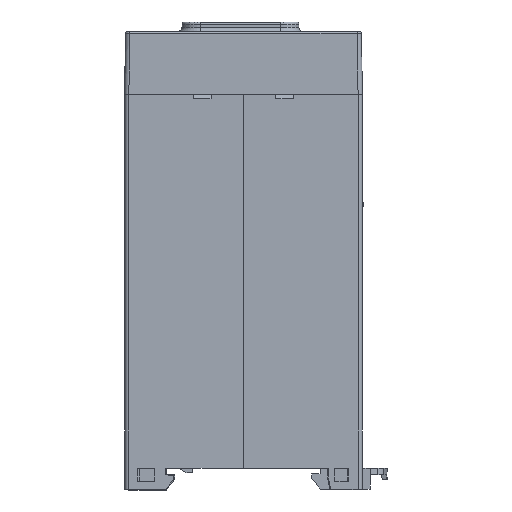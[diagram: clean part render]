
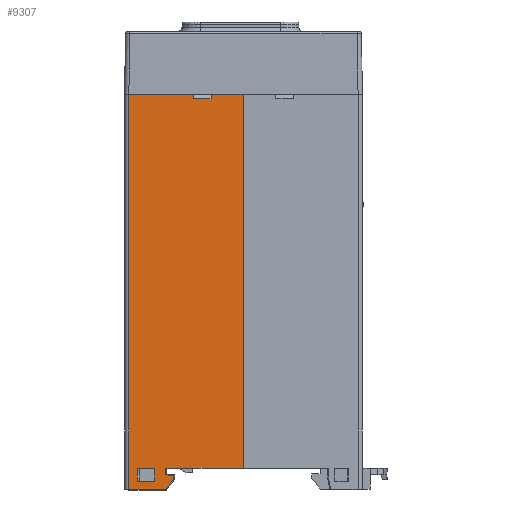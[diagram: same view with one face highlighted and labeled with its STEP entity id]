
A CAD part, left-side view. The second image highlights one B-rep face of the part: STEP entity #9307.
In plain terms, the highlighted planar face has unit normal (-1, 0, 0).
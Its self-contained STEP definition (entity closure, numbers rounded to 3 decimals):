
#8718=FACE_BOUND('',#13662,.T.);
#8719=FACE_BOUND('',#13663,.T.);
#9307=ADVANCED_FACE('',(#8718,#8719),#10836,.T.);
#10836=PLANE('',#38851);
#13662=EDGE_LOOP('',(#17702,#17703,#17704,#17705));
#13663=EDGE_LOOP('',(#17706,#17707,#17708,#17709,#17710,#17711,#17712,#17713,
#17714,#17715,#17716,#17717,#17718));
#17702=ORIENTED_EDGE('',*,*,#28139,.F.);
#17703=ORIENTED_EDGE('',*,*,#28140,.T.);
#17704=ORIENTED_EDGE('',*,*,#28141,.T.);
#17705=ORIENTED_EDGE('',*,*,#28142,.F.);
#17706=ORIENTED_EDGE('',*,*,#28143,.F.);
#17707=ORIENTED_EDGE('',*,*,#28144,.T.);
#17708=ORIENTED_EDGE('',*,*,#28145,.F.);
#17709=ORIENTED_EDGE('',*,*,#28146,.T.);
#17710=ORIENTED_EDGE('',*,*,#28147,.T.);
#17711=ORIENTED_EDGE('',*,*,#28148,.T.);
#17712=ORIENTED_EDGE('',*,*,#28149,.T.);
#17713=ORIENTED_EDGE('',*,*,#28150,.T.);
#17714=ORIENTED_EDGE('',*,*,#28151,.T.);
#17715=ORIENTED_EDGE('',*,*,#28152,.T.);
#17716=ORIENTED_EDGE('',*,*,#28153,.T.);
#17717=ORIENTED_EDGE('',*,*,#28154,.F.);
#17718=ORIENTED_EDGE('',*,*,#28155,.F.);
#24944=VERTEX_POINT('',#50334);
#24945=VERTEX_POINT('',#50335);
#24946=VERTEX_POINT('',#50337);
#24947=VERTEX_POINT('',#50339);
#24948=VERTEX_POINT('',#50342);
#24949=VERTEX_POINT('',#50343);
#24950=VERTEX_POINT('',#50345);
#24951=VERTEX_POINT('',#50347);
#24952=VERTEX_POINT('',#50349);
#24953=VERTEX_POINT('',#50351);
#24954=VERTEX_POINT('',#50353);
#24955=VERTEX_POINT('',#50355);
#24956=VERTEX_POINT('',#50357);
#24957=VERTEX_POINT('',#50359);
#24958=VERTEX_POINT('',#50361);
#24959=VERTEX_POINT('',#50363);
#24960=VERTEX_POINT('',#50365);
#28139=EDGE_CURVE('',#24944,#24945,#32287,.T.);
#28140=EDGE_CURVE('',#24944,#24946,#32288,.T.);
#28141=EDGE_CURVE('',#24946,#24947,#32289,.T.);
#28142=EDGE_CURVE('',#24945,#24947,#32290,.T.);
#28143=EDGE_CURVE('',#24948,#24949,#32291,.T.);
#28144=EDGE_CURVE('',#24948,#24950,#32292,.T.);
#28145=EDGE_CURVE('',#24951,#24950,#32293,.T.);
#28146=EDGE_CURVE('',#24951,#24952,#32294,.T.);
#28147=EDGE_CURVE('',#24952,#24953,#32295,.T.);
#28148=EDGE_CURVE('',#24953,#24954,#32296,.T.);
#28149=EDGE_CURVE('',#24954,#24955,#32297,.T.);
#28150=EDGE_CURVE('',#24955,#24956,#32298,.T.);
#28151=EDGE_CURVE('',#24956,#24957,#32299,.T.);
#28152=EDGE_CURVE('',#24957,#24958,#32300,.T.);
#28153=EDGE_CURVE('',#24958,#24959,#32301,.T.);
#28154=EDGE_CURVE('',#24960,#24959,#32302,.T.);
#28155=EDGE_CURVE('',#24949,#24960,#32303,.T.);
#32287=LINE('',#50333,#35683);
#32288=LINE('',#50336,#35684);
#32289=LINE('',#50338,#35685);
#32290=LINE('',#50340,#35686);
#32291=LINE('',#50341,#35687);
#32292=LINE('',#50344,#35688);
#32293=LINE('',#50346,#35689);
#32294=LINE('',#50348,#35690);
#32295=LINE('',#50350,#35691);
#32296=LINE('',#50352,#35692);
#32297=LINE('',#50354,#35693);
#32298=LINE('',#50356,#35694);
#32299=LINE('',#50358,#35695);
#32300=LINE('',#50360,#35696);
#32301=LINE('',#50362,#35697);
#32302=LINE('',#50364,#35698);
#32303=LINE('',#50366,#35699);
#35683=VECTOR('',#42448,1.);
#35684=VECTOR('',#42449,1.);
#35685=VECTOR('',#42450,1.);
#35686=VECTOR('',#42451,1.);
#35687=VECTOR('',#42452,1.);
#35688=VECTOR('',#42453,1.);
#35689=VECTOR('',#42454,1.);
#35690=VECTOR('',#42455,1.);
#35691=VECTOR('',#42456,1.);
#35692=VECTOR('',#42457,1.);
#35693=VECTOR('',#42458,1.);
#35694=VECTOR('',#42459,1.);
#35695=VECTOR('',#42460,1.);
#35696=VECTOR('',#42461,1.);
#35697=VECTOR('',#42462,1.);
#35698=VECTOR('',#42463,1.);
#35699=VECTOR('',#42464,1.);
#38851=AXIS2_PLACEMENT_3D('',#50367,#42465,#42466);
#42448=DIRECTION('',(0.,-1.,0.));
#42449=DIRECTION('',(0.,0.,1.));
#42450=DIRECTION('',(0.,-1.,0.));
#42451=DIRECTION('',(0.,0.,1.));
#42452=DIRECTION('',(0.,-1.,0.));
#42453=DIRECTION('',(0.,0.,1.));
#42454=DIRECTION('',(0.,-1.,0.));
#42455=DIRECTION('',(0.,0.,-1.));
#42456=DIRECTION('',(0.,-1.,0.));
#42457=DIRECTION('',(0.,-0.605,0.796));
#42458=DIRECTION('',(0.,0.,1.));
#42459=DIRECTION('',(0.,0.995,0.105));
#42460=DIRECTION('',(0.,0.,1.));
#42461=DIRECTION('',(0.,-1.,0.));
#42462=DIRECTION('',(0.,0.,1.));
#42463=DIRECTION('',(0.,-1.,0.));
#42464=DIRECTION('',(0.,0.,1.));
#42465=DIRECTION('',(-1.,0.,0.));
#42466=DIRECTION('',(0.,0.,-1.));
#50333=CARTESIAN_POINT('',(0.001,50.943,-166.731));
#50334=CARTESIAN_POINT('',(0.001,51.443,-166.731));
#50335=CARTESIAN_POINT('',(0.001,47.343,-166.731));
#50336=CARTESIAN_POINT('',(0.001,51.443,-163.731));
#50337=CARTESIAN_POINT('',(0.001,51.443,-163.731));
#50338=CARTESIAN_POINT('',(0.001,47.343,-163.731));
#50339=CARTESIAN_POINT('',(0.001,47.343,-163.731));
#50340=CARTESIAN_POINT('',(0.001,47.343,-166.731));
#50341=CARTESIAN_POINT('',(0.001,38.343,-78.231));
#50342=CARTESIAN_POINT('',(0.001,38.343,-78.231));
#50343=CARTESIAN_POINT('',(0.001,34.343,-78.231));
#50344=CARTESIAN_POINT('',(0.001,38.343,-78.231));
#50345=CARTESIAN_POINT('',(0.001,38.343,-77.231));
#50346=CARTESIAN_POINT('',(0.001,54.343,-77.231));
#50347=CARTESIAN_POINT('',(0.001,53.343,-77.231));
#50348=CARTESIAN_POINT('',(0.001,53.343,-163.731));
#50349=CARTESIAN_POINT('',(0.001,53.343,-168.531));
#50350=CARTESIAN_POINT('',(0.001,54.343,-168.531));
#50351=CARTESIAN_POINT('',(0.001,44.742,-168.531));
#50352=CARTESIAN_POINT('',(0.001,45.945,-170.113));
#50353=CARTESIAN_POINT('',(0.001,42.943,-166.164));
#50354=CARTESIAN_POINT('',(0.001,42.943,-163.731));
#50355=CARTESIAN_POINT('',(0.001,42.943,-165.411));
#50356=CARTESIAN_POINT('',(0.001,54.393,-164.206));
#50357=CARTESIAN_POINT('',(0.001,44.843,-165.211));
#50358=CARTESIAN_POINT('',(0.001,44.843,-163.731));
#50359=CARTESIAN_POINT('',(0.001,44.843,-163.731));
#50360=CARTESIAN_POINT('',(0.001,54.343,-163.731));
#50361=CARTESIAN_POINT('',(0.001,26.843,-163.731));
#50362=CARTESIAN_POINT('',(0.001,26.843,-163.731));
#50363=CARTESIAN_POINT('',(0.001,26.843,-77.231));
#50364=CARTESIAN_POINT('',(0.001,54.343,-77.231));
#50365=CARTESIAN_POINT('',(0.001,34.343,-77.231));
#50366=CARTESIAN_POINT('',(0.001,34.343,-78.231));
#50367=CARTESIAN_POINT('',(0.001,54.343,-163.731));
